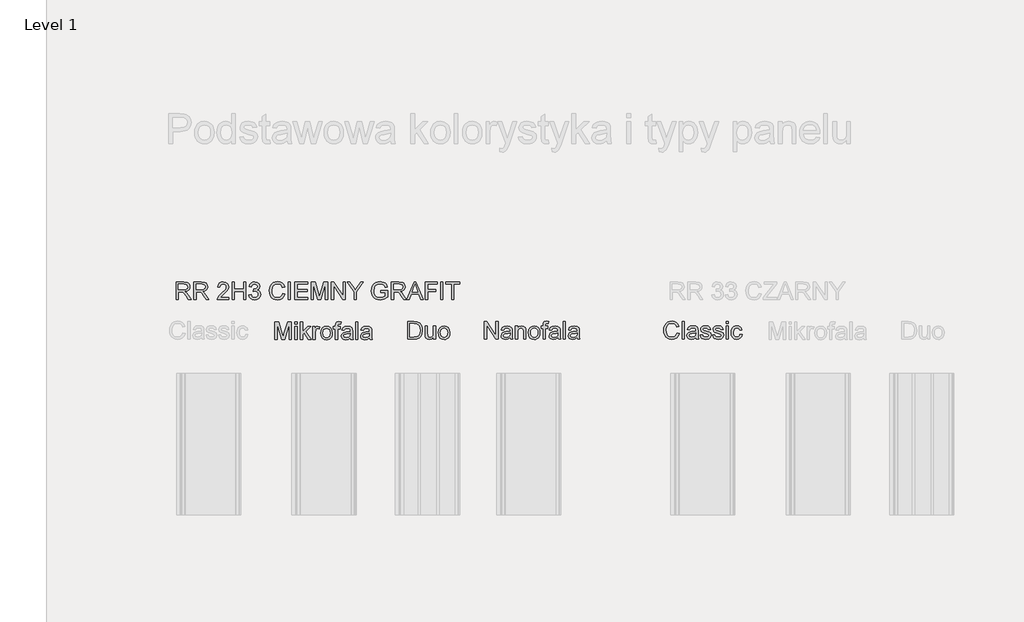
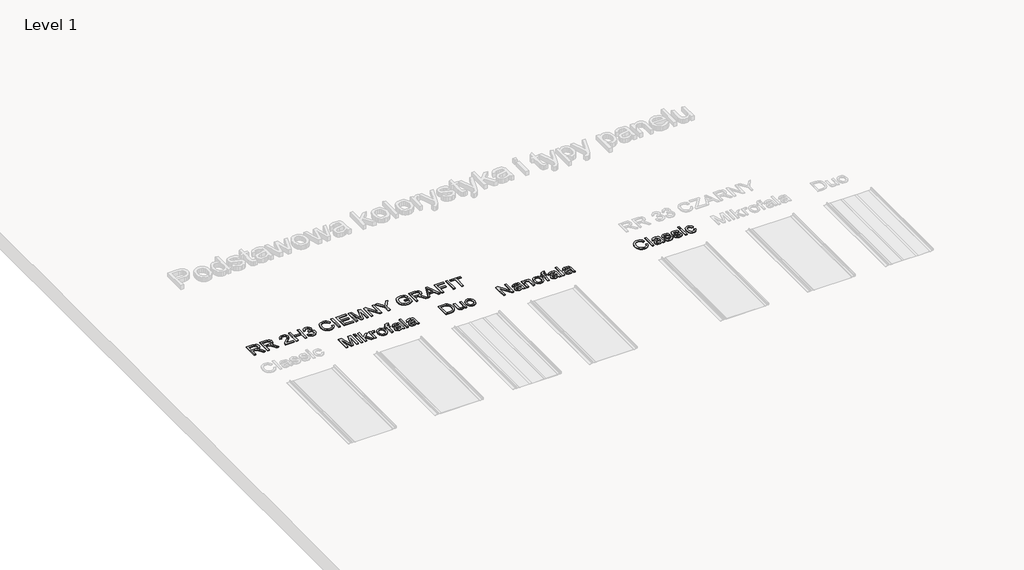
# One storey, part 17 of 22: 5 proxies.
"""IFC4 building model written with IfcOpenShell, lengths in millimetres."""

from ifc_helpers import new_model, si_unit, frame, origin, place, context, project, spatial, polyline, outline, extrude, element, save

model = new_model("IFC4")

# Units and contexts
model_context = context("Model", 3, world=origin())
ifc_project = project(units=[si_unit("LENGTHUNIT", "METRE", prefix="MILLI")], contexts=[model_context])

# Site, building, storey
site = spatial("IfcSite", under=ifc_project)
building = spatial("IfcBuilding", under=site)
storey = spatial("IfcBuildingStorey", under=building, Name="Level 1", Elevation=0.0)

# Proxies
placement = place(None, origin())
element("IfcBuildingElementProxy", 1, Name="150", ObjectType="150", at=placement, inside=storey, context=model_context, shape_type="SweptSolid", body=[
    extrude(outline(polyline([(-7895.6654959, 1124.718613), (-7895.6654959, 1275.4030782), (-7863.3654568, 1275.4030782), (-7832.4633692, 1169.1955462), (-7826.2093753, 1147.0122619), (-7819.4771347, 1171.0349562), (-7789.1636583, 1275.4030782), (-7756.7532546, 1275.4030782), (-7756.7532546, 1124.718613), (-7775.5888127, 1124.718613), (-7775.5888127, 1256.5675201), (-7813.44387, 1124.718613), (-7838.9380923, 1124.718613), (-7876.8299378, 1256.5675201), (-7876.8299378, 1124.718613), (-7895.6654959, 1124.718613)])), frame((0.0, 0.0, 600.0), z_axis=(0.0, 0.0, 1.0), x_axis=(1.0, 0.0, 0.0)), (0.0, 0.0, 1.0), 10.0),
    extrude(outline(polyline([(-7726.1454726, 1256.5675201), (-7726.1454726, 1275.4030782), (-7707.3099144, 1275.4030782), (-7707.3099144, 1256.5675201), (-7726.1454726, 1256.5675201)])), frame((0.0, 0.0, 600.0), z_axis=(0.0, 0.0, 1.0), x_axis=(1.0, 0.0, 0.0)), (0.0, 0.0, 1.0), 10.0),
    extrude(outline(polyline([(-7726.1454726, 1124.718613), (-7726.1454726, 1235.3775171), (-7707.3099144, 1235.3775171), (-7707.3099144, 1124.718613), (-7726.1454726, 1124.718613)])), frame((0.0, 0.0, 600.0), z_axis=(0.0, 0.0, 1.0), x_axis=(1.0, 0.0, 0.0)), (0.0, 0.0, 1.0), 10.0),
    extrude(outline(polyline([(-7679.0565772, 1124.718613), (-7679.0565772, 1275.4030782), (-7660.221019, 1275.4030782), (-7660.221019, 1194.4322511), (-7617.988166, 1235.3775171), (-7591.9421207, 1235.3775171), (-7634.7267968, 1193.9172163), (-7589.587676, 1124.718613), (-7611.5870193, 1124.718613), (-7648.228066, 1180.8206173), (-7660.221019, 1169.158758), (-7660.221019, 1124.718613), (-7679.0565772, 1124.718613)])), frame((0.0, 0.0, 600.0), z_axis=(0.0, 0.0, 1.0), x_axis=(1.0, 0.0, 0.0)), (0.0, 0.0, 1.0), 10.0),
    extrude(outline(polyline([(-7573.1065626, 1124.718613), (-7573.1065626, 1235.3775171), (-7556.6254492, 1235.3775171), (-7556.6254492, 1219.0067684), (-7544.9268017, 1234.0899302), (-7533.1545779, 1237.7319619), (-7514.2454433, 1231.9194264), (-7520.5362255, 1215.0336428), (-7533.7799773, 1218.8964038), (-7544.4301611, 1215.1807956), (-7551.2175839, 1204.8800997), (-7554.2710044, 1182.8807564), (-7554.2710044, 1124.718613), (-7573.1065626, 1124.718613)])), frame((0.0, 0.0, 600.0), z_axis=(0.0, 0.0, 1.0), x_axis=(1.0, 0.0, 0.0)), (0.0, 0.0, 1.0), 10.0),
    extrude(outline(polyline([(-7507.182109, 1180.0480651), (-7503.1078159, 1206.7287068), (-7490.8849367, 1225.4814915), (-7475.7833808, 1234.6693443), (-7457.7019807, 1237.7319619), (-7437.9145279, 1234.0025582), (-7422.1093977, 1222.814347), (-7411.748921, 1205.0502452), (-7408.2954287, 1181.5931694), (-7409.822139, 1162.5644732), (-7414.4022699, 1148.0791197), (-7421.902464, 1137.2311993), (-7432.1893643, 1129.1148028), (-7444.4076451, 1124.0518269), (-7457.7019807, 1122.3641682), (-7477.7285568, 1126.0797764), (-7493.5152929, 1137.2266008), (-7503.765405, 1155.3631832), (-7507.182109, 1180.0480651)]), holes=[polyline([(-7488.3465509, 1180.0848533), (-7486.1668501, 1163.0381213), (-7479.6277476, 1150.8934169), (-7469.7869042, 1143.623149), (-7457.7019807, 1141.1997264), (-7445.6722394, 1143.6369446), (-7435.8497902, 1150.9485992), (-7429.3106877, 1163.254252), (-7427.1309869, 1180.6734645), (-7429.3244833, 1197.2235557), (-7435.9049725, 1209.2027132), (-7445.7412173, 1216.4729811), (-7457.7019807, 1218.8964038), (-7469.7869042, 1216.4821782), (-7479.6277476, 1209.2395014), (-7486.1668501, 1197.1223882), (-7488.3465509, 1180.0848533)])]), frame((0.0, 0.0, 600.0), z_axis=(0.0, 0.0, 1.0), x_axis=(1.0, 0.0, 0.0)), (0.0, 0.0, 1.0), 10.0),
    extrude(outline(polyline([(-7382.3965363, 1124.718613), (-7382.3965363, 1216.541959), (-7398.8776497, 1216.541959), (-7398.8776497, 1235.3775171), (-7382.3965363, 1235.3775171), (-7382.3965363, 1246.5243416), (-7380.4099735, 1262.2329028), (-7370.7714652, 1273.4533036), (-7351.7887543, 1277.757523), (-7334.6086651, 1275.6973838), (-7337.3677801, 1258.039048), (-7348.2202989, 1258.9219648), (-7360.0844933, 1255.7949679), (-7363.5609781, 1244.1331086), (-7363.5609781, 1235.3775171), (-7342.3709752, 1235.3775171), (-7342.3709752, 1216.541959), (-7363.5609781, 1216.541959), (-7363.5609781, 1124.718613), (-7382.3965363, 1124.718613)])), frame((0.0, 0.0, 600.0), z_axis=(0.0, 0.0, 1.0), x_axis=(1.0, 0.0, 0.0)), (0.0, 0.0, 1.0), 10.0),
    extrude(outline(polyline([(-7255.2565187, 1138.8452816), (-7273.5218598, 1126.0797764), (-7293.7001872, 1122.3641682), (-7309.4409381, 1124.5990513), (-7321.0522136, 1131.3037007), (-7328.2121169, 1141.4848349), (-7330.5987514, 1154.1491726), (-7326.9935078, 1169.0483934), (-7317.5205464, 1179.8641241), (-7304.3319769, 1186.0445416), (-7288.0348045, 1188.8772329), (-7255.3668833, 1195.3519561), (-7255.2565187, 1199.5458108), (-7256.5533028, 1207.9519144), (-7260.4436549, 1213.4517502), (-7269.1440641, 1217.5352404), (-7281.2657758, 1218.8964038), (-7300.3220632, 1215.2727661), (-7309.4087484, 1202.4152904), (-7328.2443066, 1204.7697351), (-7320.0957204, 1223.1638349), (-7303.6881834, 1233.9427774), (-7278.8377546, 1237.7319619), (-7256.0106768, 1234.3842357), (-7243.1164129, 1225.9781322), (-7237.3406656, 1213.1942328), (-7236.4209606, 1196.7131194), (-7236.4209606, 1173.2790364), (-7235.4644674, 1140.5559329), (-7231.7120711, 1124.718613), (-7250.5476292, 1124.718613), (-7255.2565187, 1138.8452816)]), holes=[polyline([(-7255.2565187, 1176.5163979), (-7285.6435715, 1170.7406506), (-7301.8487734, 1167.68723), (-7309.1880192, 1162.7208231), (-7311.7631932, 1155.4735478), (-7306.1529928, 1145.2832165), (-7289.6902735, 1141.1997264), (-7270.6339861, 1145.7062808), (-7258.3467275, 1156.613982), (-7255.3668833, 1171.182109), (-7255.2565187, 1176.5163979)])]), frame((0.0, 0.0, 600.0), z_axis=(0.0, 0.0, 1.0), x_axis=(1.0, 0.0, 0.0)), (0.0, 0.0, 1.0), 10.0),
    extrude(outline(polyline([(-7210.5220681, 1124.718613), (-7210.5220681, 1275.4030782), (-7191.68651, 1275.4030782), (-7191.68651, 1124.718613), (-7210.5220681, 1124.718613)])), frame((0.0, 0.0, 600.0), z_axis=(0.0, 0.0, 1.0), x_axis=(1.0, 0.0, 0.0)), (0.0, 0.0, 1.0), 10.0),
    extrude(outline(polyline([(-7092.7998297, 1138.8452816), (-7111.0651707, 1126.0797764), (-7131.2434982, 1122.3641682), (-7146.984249, 1124.5990513), (-7158.5955245, 1131.3037007), (-7165.7554278, 1141.4848349), (-7168.1420623, 1154.1491726), (-7164.5368187, 1169.0483934), (-7155.0638574, 1179.8641241), (-7141.8752878, 1186.0445416), (-7125.5781154, 1188.8772329), (-7092.9101943, 1195.3519561), (-7092.7998297, 1199.5458108), (-7094.0966137, 1207.9519144), (-7097.9869658, 1213.4517502), (-7106.687375, 1217.5352404), (-7118.8090867, 1218.8964038), (-7137.8653741, 1215.2727661), (-7146.9520594, 1202.4152904), (-7165.7876175, 1204.7697351), (-7157.6390313, 1223.1638349), (-7141.2314943, 1233.9427774), (-7116.3810656, 1237.7319619), (-7093.5539878, 1234.3842357), (-7080.6597238, 1225.9781322), (-7074.8839765, 1213.1942328), (-7073.9642715, 1196.7131194), (-7073.9642715, 1173.2790364), (-7073.0077783, 1140.5559329), (-7069.255382, 1124.718613), (-7088.0909401, 1124.718613), (-7092.7998297, 1138.8452816)]), holes=[polyline([(-7092.7998297, 1176.5163979), (-7123.1868825, 1170.7406506), (-7139.3920844, 1167.68723), (-7146.7313302, 1162.7208231), (-7149.3065041, 1155.4735478), (-7143.6963037, 1145.2832165), (-7127.2335844, 1141.1997264), (-7108.1772971, 1145.7062808), (-7095.8900384, 1156.613982), (-7092.9101943, 1171.182109), (-7092.7998297, 1176.5163979)])]), frame((0.0, 0.0, 600.0), z_axis=(0.0, 0.0, 1.0), x_axis=(1.0, 0.0, 0.0)), (0.0, 0.0, 1.0), 10.0),
])
element("IfcBuildingElementProxy", 2, Name="150", ObjectType="150", at=placement, inside=storey, context=model_context, shape_type="SweptSolid", body=[
    extrude(outline(polyline([(-6767.5807075, 1127.8407532), (-6767.5807075, 1278.5252184), (-6715.5989816, 1278.5252184), (-6688.7068077, 1276.3547147), (-6666.5603116, 1265.5757722), (-6656.1400541, 1254.097854), (-6648.7180349, 1239.8240325), (-6644.2758598, 1223.0302195), (-6642.7951347, 1203.9923262), (-6646.8050485, 1173.5868793), (-6657.1057443, 1151.6427183), (-6670.864531, 1137.9759022), (-6688.8723546, 1130.4159272), (-6713.097384, 1127.8407532), (-6767.5807075, 1127.8407532)]), holes=[polyline([(-6748.7451493, 1146.6763114), (-6715.4150406, 1146.6763114), (-6691.1716171, 1149.3986381), (-6677.1921013, 1157.0873718), (-6665.7325771, 1175.7941713), (-6661.6306929, 1204.2866318), (-6663.6402483, 1224.8144471), (-6669.6689145, 1239.9711853), (-6678.5762573, 1250.3822458), (-6689.2218425, 1256.6730279), (-6715.9300754, 1259.6896603), (-6748.7451493, 1259.6896603), (-6748.7451493, 1146.6763114)])]), frame((0.0, 0.0, 600.0), z_axis=(0.0, 0.0, 1.0), x_axis=(1.0, 0.0, 0.0)), (0.0, 0.0, 1.0), 10.0),
    extrude(outline(polyline([(-6548.617344, 1127.8407532), (-6548.617344, 1146.8602524), (-6563.369412, 1130.8297944), (-6582.6096403, 1125.4863084), (-6600.3231584, 1129.2387048), (-6612.5368406, 1138.6564839), (-6618.1470411, 1152.5256351), (-6619.250687, 1170.0368181), (-6619.250687, 1238.4996574), (-6600.4151289, 1238.4996574), (-6600.4151289, 1178.9027741), (-6599.2746947, 1159.699334), (-6591.8250843, 1148.4237508), (-6577.7903862, 1144.3218666), (-6562.0634309, 1148.5157213), (-6551.6707645, 1159.9384573), (-6548.617344, 1180.9261251), (-6548.617344, 1238.4996574), (-6529.7817858, 1238.4996574), (-6529.7817858, 1127.8407532), (-6548.617344, 1127.8407532)])), frame((0.0, 0.0, 600.0), z_axis=(0.0, 0.0, 1.0), x_axis=(1.0, 0.0, 0.0)), (0.0, 0.0, 1.0), 10.0),
    extrude(outline(polyline([(-6508.5917829, 1183.1702053), (-6504.5174898, 1209.850847), (-6492.2946105, 1228.6036317), (-6477.1930546, 1237.7914845), (-6459.1116545, 1240.8541021), (-6439.3242017, 1237.1246984), (-6423.5190715, 1225.9364872), (-6413.1585948, 1208.1723854), (-6409.7051026, 1184.7153097), (-6411.2318129, 1165.6866135), (-6415.8119437, 1151.2012599), (-6423.3121379, 1140.3533396), (-6433.5990382, 1132.2369431), (-6445.8173189, 1127.1739671), (-6459.1116545, 1125.4863084), (-6479.1382307, 1129.2019166), (-6494.9249668, 1140.348741), (-6505.1750789, 1158.4853234), (-6508.5917829, 1183.1702053)]), holes=[polyline([(-6489.7562247, 1183.2069935), (-6487.5765239, 1166.1602615), (-6481.0374215, 1154.0155572), (-6471.1965781, 1146.7452892), (-6459.1116545, 1144.3218666), (-6447.0819133, 1146.7590848), (-6437.259464, 1154.0707395), (-6430.7203616, 1166.3763922), (-6428.5406607, 1183.7956047), (-6430.7341571, 1200.3456959), (-6437.3146463, 1212.3248534), (-6447.1508912, 1219.5951213), (-6459.1116545, 1222.018544), (-6471.1965781, 1219.6043184), (-6481.0374215, 1212.3616416), (-6487.5765239, 1200.2445284), (-6489.7562247, 1183.2069935)])]), frame((0.0, 0.0, 600.0), z_axis=(0.0, 0.0, 1.0), x_axis=(1.0, 0.0, 0.0)), (0.0, 0.0, 1.0), 10.0),
])
element("IfcBuildingElementProxy", 3, Name="150", ObjectType="150", at=placement, inside=storey, context=model_context, shape_type="SweptSolid", body=[
    extrude(outline(polyline([(-4479.0085992, 1182.8181359), (-4460.1730411, 1177.9620936), (-4468.8642532, 1156.013334), (-4482.5034782, 1139.9782776), (-4500.4193314, 1130.1696239), (-4521.9404281, 1126.9000726), (-4543.7880201, 1129.3740791), (-4561.1382547, 1136.7960983), (-4574.4371888, 1148.908613), (-4584.1308794, 1165.4541057), (-4590.049181, 1184.9058662), (-4592.0219482, 1205.7371842), (-4589.7916636, 1227.7089364), (-4583.1008098, 1246.6824503), (-4572.2988747, 1262.0553191), (-4557.7353462, 1273.2251362), (-4540.4632865, 1280.0263546), (-4521.5357579, 1282.2934274), (-4500.8837824, 1279.3595685), (-4483.8094593, 1270.5579918), (-4470.8462175, 1256.4313231), (-4462.5274859, 1237.5221886), (-4481.363044, 1233.0340282), (-4487.8929494, 1246.7698222), (-4496.8140878, 1256.1921998), (-4508.2368238, 1261.6414519), (-4522.2715219, 1263.4578692), (-4538.4491326, 1261.4437153), (-4551.7388697, 1255.4012536), (-4561.8234349, 1245.9650804), (-4568.38553, 1233.7697922), (-4573.18639, 1205.7739724), (-4571.7654458, 1188.373154), (-4567.5026132, 1173.3267804), (-4560.2369438, 1161.2096672), (-4549.8074892, 1152.59663), (-4537.3040999, 1147.4508806), (-4523.8166263, 1145.7356308), (-4508.0942695, 1148.0716815), (-4494.9930719, 1155.0798335), (-4485.1016448, 1166.6865104), (-4479.0085992, 1182.8181359)])), frame((0.0, 0.0, 600.0), z_axis=(0.0, 0.0, 1.0), x_axis=(1.0, 0.0, 0.0)), (0.0, 0.0, 1.0), 10.0),
    extrude(outline(polyline([(-4436.6285934, 1129.2545174), (-4436.6285934, 1279.9389826), (-4417.7930352, 1279.9389826), (-4417.7930352, 1129.2545174), (-4436.6285934, 1129.2545174)])), frame((0.0, 0.0, 600.0), z_axis=(0.0, 0.0, 1.0), x_axis=(1.0, 0.0, 0.0)), (0.0, 0.0, 1.0), 10.0),
    extrude(outline(polyline([(-4318.9063549, 1143.381186), (-4337.171696, 1130.6156808), (-4357.3500234, 1126.9000726), (-4373.0907743, 1129.1349558), (-4384.7020498, 1135.8396051), (-4391.8619531, 1146.0207393), (-4394.2485875, 1158.685077), (-4390.643344, 1173.5842978), (-4381.1703826, 1184.4000285), (-4367.9818131, 1190.580446), (-4351.6846407, 1193.4131374), (-4319.0167195, 1199.8878605), (-4318.9063549, 1204.0817152), (-4320.203139, 1212.4878188), (-4324.0934911, 1217.9876546), (-4332.7939003, 1222.0711448), (-4344.915612, 1223.4323082), (-4363.9718993, 1219.8086705), (-4373.0585846, 1206.9511948), (-4391.8941428, 1209.3056396), (-4383.7455566, 1227.6997393), (-4367.3380196, 1238.4786818), (-4342.4875908, 1242.2678663), (-4319.660513, 1238.9201402), (-4306.7662491, 1230.5140366), (-4300.9905018, 1217.7301372), (-4300.0707968, 1201.2490239), (-4300.0707968, 1177.8149408), (-4299.1143036, 1145.0918373), (-4295.3619072, 1129.2545174), (-4314.1974654, 1129.2545174), (-4318.9063549, 1143.381186)]), holes=[polyline([(-4318.9063549, 1181.0523023), (-4349.2934077, 1175.276555), (-4365.4986096, 1172.2231344), (-4372.8378554, 1167.2567275), (-4375.4130294, 1160.0094522), (-4369.802829, 1149.8191209), (-4353.3401097, 1145.7356308), (-4334.2838223, 1150.2421852), (-4321.9965637, 1161.1498864), (-4319.0167195, 1175.7180134), (-4318.9063549, 1181.0523023)])]), frame((0.0, 0.0, 600.0), z_axis=(0.0, 0.0, 1.0), x_axis=(1.0, 0.0, 0.0)), (0.0, 0.0, 1.0), 10.0),
    extrude(outline(polyline([(-4281.2352386, 1162.2167442), (-4262.3996805, 1164.5711889), (-4259.4290334, 1156.5145732), (-4253.6808772, 1150.5916731), (-4233.7048849, 1145.7356308), (-4214.5014447, 1150.1870029), (-4208.2474508, 1160.6348516), (-4209.8201463, 1165.4357116), (-4214.5382329, 1169.0961375), (-4233.9256141, 1174.4672146), (-4262.2893159, 1183.6826586), (-4274.668545, 1194.4432069), (-4278.8807939, 1209.6367334), (-4275.4962795, 1223.6714315), (-4266.2624414, 1234.3951916), (-4254.2878825, 1239.9686039), (-4238.0826806, 1242.2678663), (-4215.1636323, 1238.5706523), (-4200.5955053, 1228.564262), (-4194.1207822, 1211.6600843), (-4212.9563403, 1209.3056396), (-4220.0380687, 1219.6983059), (-4236.6111526, 1223.4323082), (-4254.6373704, 1219.8638528), (-4260.0452357, 1211.5497197), (-4257.8011555, 1206.068278), (-4250.7746094, 1201.9112115), (-4234.5510134, 1197.9012977), (-4206.9046815, 1189.0353416), (-4194.0655999, 1178.9921632), (-4189.4118926, 1162.6214144), (-4194.8749403, 1144.5951966), (-4210.6386838, 1131.5169917), (-4233.9624023, 1126.9000726), (-4252.9543103, 1129.1257587), (-4266.8142644, 1135.8028169), (-4276.0664966, 1146.8576709), (-4281.2352386, 1162.2167442)])), frame((0.0, 0.0, 600.0), z_axis=(0.0, 0.0, 1.0), x_axis=(1.0, 0.0, 0.0)), (0.0, 0.0, 1.0), 10.0),
    extrude(outline(polyline([(-4175.285224, 1162.2167442), (-4156.4496659, 1164.5711889), (-4153.4790188, 1156.5145732), (-4147.7308626, 1150.5916731), (-4127.7548702, 1145.7356308), (-4108.5514301, 1150.1870029), (-4102.2974362, 1160.6348516), (-4103.8701317, 1165.4357116), (-4108.5882183, 1169.0961375), (-4127.9755994, 1174.4672146), (-4156.3393013, 1183.6826586), (-4168.7185304, 1194.4432069), (-4172.9307793, 1209.6367334), (-4169.5462649, 1223.6714315), (-4160.3124268, 1234.3951916), (-4148.3378679, 1239.9686039), (-4132.132666, 1242.2678663), (-4109.2136177, 1238.5706523), (-4094.6454907, 1228.564262), (-4088.1707676, 1211.6600843), (-4107.0063257, 1209.3056396), (-4114.0880541, 1219.6983059), (-4130.661138, 1223.4323082), (-4148.6873558, 1219.8638528), (-4154.0952211, 1211.5497197), (-4151.8511409, 1206.068278), (-4144.8245948, 1201.9112115), (-4128.6009988, 1197.9012977), (-4100.9546669, 1189.0353416), (-4088.1155853, 1178.9921632), (-4083.461878, 1162.6214144), (-4088.9249257, 1144.5951966), (-4104.6886691, 1131.5169917), (-4128.0123876, 1126.9000726), (-4147.0042956, 1129.1257587), (-4160.8642498, 1135.8028169), (-4170.116482, 1146.8576709), (-4175.285224, 1162.2167442)])), frame((0.0, 0.0, 600.0), z_axis=(0.0, 0.0, 1.0), x_axis=(1.0, 0.0, 0.0)), (0.0, 0.0, 1.0), 10.0),
    extrude(outline(polyline([(-4062.2718751, 1261.1034245), (-4062.2718751, 1279.9389826), (-4043.4363169, 1279.9389826), (-4043.4363169, 1261.1034245), (-4062.2718751, 1261.1034245)])), frame((0.0, 0.0, 600.0), z_axis=(0.0, 0.0, 1.0), x_axis=(1.0, 0.0, 0.0)), (0.0, 0.0, 1.0), 10.0),
    extrude(outline(polyline([(-4062.2718751, 1129.2545174), (-4062.2718751, 1239.9134216), (-4043.4363169, 1239.9134216), (-4043.4363169, 1129.2545174), (-4062.2718751, 1129.2545174)])), frame((0.0, 0.0, 600.0), z_axis=(0.0, 0.0, 1.0), x_axis=(1.0, 0.0, 0.0)), (0.0, 0.0, 1.0), 10.0),
    extrude(outline(polyline([(-3944.5496366, 1169.2800785), (-3925.7140785, 1166.9256337), (-3930.965594, 1150.1732074), (-3940.8340285, 1137.5134682), (-3954.39048, 1129.5534215), (-3970.7060465, 1126.9000726), (-3990.7418197, 1130.6018852), (-4006.4089941, 1141.7073229), (-4016.5211505, 1159.7289422), (-4019.8918693, 1184.1792993), (-4018.452531, 1200.9409227), (-4014.134516, 1215.467663), (-4006.8688466, 1227.1985001), (-3996.5865449, 1235.572414), (-3984.2854906, 1240.5940032), (-3970.9635639, 1242.2678663), (-3955.0480691, 1239.9686039), (-3942.3239506, 1233.0708164), (-3933.1958786, 1221.9423861), (-3928.0685233, 1206.9511948), (-3946.9040814, 1204.59675), (-3955.6412788, 1218.7050245), (-3970.8164111, 1223.4323082), (-3982.9887066, 1221.1054546), (-3992.6502075, 1214.1248937), (-3998.9547852, 1202.1135465), (-4001.0563111, 1184.6943341), (-3999.0007705, 1167.0405968), (-3992.8341485, 1154.987863), (-3983.3473916, 1148.0486888), (-3971.3314459, 1145.7356308), (-3961.5779745, 1147.1795676), (-3953.5811396, 1151.5113781), (-3947.7640056, 1158.8414269), (-3944.5496366, 1169.2800785)])), frame((0.0, 0.0, 600.0), z_axis=(0.0, 0.0, 1.0), x_axis=(1.0, 0.0, 0.0)), (0.0, 0.0, 1.0), 10.0),
])
element("IfcBuildingElementProxy", 4, Name="150", ObjectType="150", at=placement, inside=storey, context=model_context, shape_type="SweptSolid", body=[
    extrude(outline(polyline([(-6116.7806572, 1127.8407532), (-6116.7806572, 1278.5252184), (-6096.6207239, 1278.5252184), (-6017.8939769, 1159.147511), (-6017.8939769, 1278.5252184), (-5999.0584188, 1278.5252184), (-5999.0584188, 1127.8407532), (-6019.2183521, 1127.8407532), (-6097.9450991, 1247.2552488), (-6097.9450991, 1127.8407532), (-6116.7806572, 1127.8407532)])), frame((0.0, 0.0, 600.0), z_axis=(0.0, 0.0, 1.0), x_axis=(1.0, 0.0, 0.0)), (0.0, 0.0, 1.0), 10.0),
    extrude(outline(polyline([(-5897.8172937, 1141.9674218), (-5916.0826347, 1129.2019166), (-5936.2609622, 1125.4863084), (-5952.001713, 1127.7211916), (-5963.6129885, 1134.4258409), (-5970.7728919, 1144.6069751), (-5973.1595263, 1157.2713128), (-5969.5542827, 1172.1705336), (-5960.0813214, 1182.9862643), (-5946.8927518, 1189.1666818), (-5930.5955795, 1191.9993732), (-5897.9276583, 1198.4740963), (-5897.8172937, 1202.667951), (-5899.1140777, 1211.0740546), (-5903.0044298, 1216.5738904), (-5911.704839, 1220.6573806), (-5923.8265507, 1222.018544), (-5942.8828381, 1218.3949063), (-5951.9695234, 1205.5374306), (-5970.8050815, 1207.8918754), (-5962.6564953, 1226.2859751), (-5946.2489583, 1237.0649176), (-5921.3985296, 1240.8541021), (-5898.5714518, 1237.506376), (-5885.6771878, 1229.1002724), (-5879.9014405, 1216.316373), (-5878.9817355, 1199.8352597), (-5878.9817355, 1176.4011766), (-5878.0252423, 1143.6780731), (-5874.272846, 1127.8407532), (-5893.1084041, 1127.8407532), (-5897.8172937, 1141.9674218)]), holes=[polyline([(-5897.8172937, 1179.6385381), (-5928.2043465, 1173.8627908), (-5944.4095484, 1170.8093702), (-5951.7487942, 1165.8429633), (-5954.3239681, 1158.595688), (-5948.7137677, 1148.4053567), (-5932.2510484, 1144.3218666), (-5913.1947611, 1148.828421), (-5900.9075024, 1159.7361222), (-5897.9276583, 1174.3042492), (-5897.8172937, 1179.6385381)])]), frame((0.0, 0.0, 600.0), z_axis=(0.0, 0.0, 1.0), x_axis=(1.0, 0.0, 0.0)), (0.0, 0.0, 1.0), 10.0),
    extrude(outline(polyline([(-5853.0828431, 1127.8407532), (-5853.0828431, 1238.4996574), (-5834.2472849, 1238.4996574), (-5834.2472849, 1223.0486136), (-5819.8447048, 1236.40273), (-5800.1814122, 1240.8541021), (-5782.3943177, 1237.2672527), (-5770.2542119, 1227.8494736), (-5764.6072232, 1213.9987165), (-5763.6139418, 1195.7885577), (-5763.6139418, 1127.8407532), (-5782.4495, 1127.8407532), (-5782.4495, 1193.250172), (-5784.6200038, 1209.9152263), (-5792.2903434, 1218.7260001), (-5805.2213955, 1222.018544), (-5816.2532568, 1220.1699369), (-5825.6572403, 1214.6241159), (-5832.0997738, 1203.9095528), (-5834.2472849, 1186.5547196), (-5834.2472849, 1127.8407532), (-5853.0828431, 1127.8407532)])), frame((0.0, 0.0, 600.0), z_axis=(0.0, 0.0, 1.0), x_axis=(1.0, 0.0, 0.0)), (0.0, 0.0, 1.0), 10.0),
    extrude(outline(polyline([(-5742.4239389, 1183.1702053), (-5738.3496458, 1209.850847), (-5726.1267665, 1228.6036317), (-5711.0252106, 1237.7914845), (-5692.9438106, 1240.8541021), (-5673.1563578, 1237.1246984), (-5657.3512275, 1225.9364872), (-5646.9907508, 1208.1723854), (-5643.5372586, 1184.7153097), (-5645.0639689, 1165.6866135), (-5649.6440997, 1151.2012599), (-5657.1442939, 1140.3533396), (-5667.4311942, 1132.2369431), (-5679.649475, 1127.1739671), (-5692.9438106, 1125.4863084), (-5712.9703867, 1129.2019166), (-5728.7571228, 1140.348741), (-5739.0072349, 1158.4853234), (-5742.4239389, 1183.1702053)]), holes=[polyline([(-5723.5883808, 1183.2069935), (-5721.4086799, 1166.1602615), (-5714.8695775, 1154.0155572), (-5705.0287341, 1146.7452892), (-5692.9438106, 1144.3218666), (-5680.9140693, 1146.7590848), (-5671.0916201, 1154.0707395), (-5664.5525176, 1166.3763922), (-5662.3728168, 1183.7956047), (-5664.5663132, 1200.3456959), (-5671.1468024, 1212.3248534), (-5680.9830472, 1219.5951213), (-5692.9438106, 1222.018544), (-5705.0287341, 1219.6043184), (-5714.8695775, 1212.3616416), (-5721.4086799, 1200.2445284), (-5723.5883808, 1183.2069935)])]), frame((0.0, 0.0, 600.0), z_axis=(0.0, 0.0, 1.0), x_axis=(1.0, 0.0, 0.0)), (0.0, 0.0, 1.0), 10.0),
    extrude(outline(polyline([(-5617.6383662, 1127.8407532), (-5617.6383662, 1219.6640992), (-5634.1194795, 1219.6640992), (-5634.1194795, 1238.4996574), (-5617.6383662, 1238.4996574), (-5617.6383662, 1249.6464818), (-5615.6518034, 1265.355043), (-5606.0132951, 1276.5754439), (-5587.0305842, 1280.8796632), (-5569.850495, 1278.819524), (-5572.6096099, 1261.1611883), (-5583.4621288, 1262.044105), (-5595.3263231, 1258.9171081), (-5598.802808, 1247.2552488), (-5598.802808, 1238.4996574), (-5577.6128051, 1238.4996574), (-5577.6128051, 1219.6640992), (-5598.802808, 1219.6640992), (-5598.802808, 1127.8407532), (-5617.6383662, 1127.8407532)])), frame((0.0, 0.0, 600.0), z_axis=(0.0, 0.0, 1.0), x_axis=(1.0, 0.0, 0.0)), (0.0, 0.0, 1.0), 10.0),
    extrude(outline(polyline([(-5490.4983486, 1141.9674218), (-5508.7636897, 1129.2019166), (-5528.9420171, 1125.4863084), (-5544.682768, 1127.7211916), (-5556.2940435, 1134.4258409), (-5563.4539468, 1144.6069751), (-5565.8405812, 1157.2713128), (-5562.2353377, 1172.1705336), (-5552.7623763, 1182.9862643), (-5539.5738068, 1189.1666818), (-5523.2766344, 1191.9993732), (-5490.6087132, 1198.4740963), (-5490.4983486, 1202.667951), (-5491.7951327, 1211.0740546), (-5495.6854848, 1216.5738904), (-5504.3858939, 1220.6573806), (-5516.5076057, 1222.018544), (-5535.563893, 1218.3949063), (-5544.6505783, 1205.5374306), (-5563.4861365, 1207.8918754), (-5555.3375503, 1226.2859751), (-5538.9300133, 1237.0649176), (-5514.0795845, 1240.8541021), (-5491.2525067, 1237.506376), (-5478.3582428, 1229.1002724), (-5472.5824955, 1216.316373), (-5471.6627905, 1199.8352597), (-5471.6627905, 1176.4011766), (-5470.7062973, 1143.6780731), (-5466.9539009, 1127.8407532), (-5485.7894591, 1127.8407532), (-5490.4983486, 1141.9674218)]), holes=[polyline([(-5490.4983486, 1179.6385381), (-5520.8854014, 1173.8627908), (-5537.0906033, 1170.8093702), (-5544.4298491, 1165.8429633), (-5547.0050231, 1158.595688), (-5541.3948227, 1148.4053567), (-5524.9321034, 1144.3218666), (-5505.875816, 1148.828421), (-5493.5885574, 1159.7361222), (-5490.6087132, 1174.3042492), (-5490.4983486, 1179.6385381)])]), frame((0.0, 0.0, 600.0), z_axis=(0.0, 0.0, 1.0), x_axis=(1.0, 0.0, 0.0)), (0.0, 0.0, 1.0), 10.0),
    extrude(outline(polyline([(-5445.763898, 1127.8407532), (-5445.763898, 1278.5252184), (-5426.9283399, 1278.5252184), (-5426.9283399, 1127.8407532), (-5445.763898, 1127.8407532)])), frame((0.0, 0.0, 600.0), z_axis=(0.0, 0.0, 1.0), x_axis=(1.0, 0.0, 0.0)), (0.0, 0.0, 1.0), 10.0),
    extrude(outline(polyline([(-5328.0416596, 1141.9674218), (-5346.3070006, 1129.2019166), (-5366.485328, 1125.4863084), (-5382.2260789, 1127.7211916), (-5393.8373544, 1134.4258409), (-5400.9972577, 1144.6069751), (-5403.3838922, 1157.2713128), (-5399.7786486, 1172.1705336), (-5390.3056872, 1182.9862643), (-5377.1171177, 1189.1666818), (-5360.8199453, 1191.9993732), (-5328.1520242, 1198.4740963), (-5328.0416596, 1202.667951), (-5329.3384436, 1211.0740546), (-5333.2287957, 1216.5738904), (-5341.9292049, 1220.6573806), (-5354.0509166, 1222.018544), (-5373.107204, 1218.3949063), (-5382.1938892, 1205.5374306), (-5401.0294474, 1207.8918754), (-5392.8808612, 1226.2859751), (-5376.4733242, 1237.0649176), (-5351.6228954, 1240.8541021), (-5328.7958176, 1237.506376), (-5315.9015537, 1229.1002724), (-5310.1258064, 1216.316373), (-5309.2061014, 1199.8352597), (-5309.2061014, 1176.4011766), (-5308.2496082, 1143.6780731), (-5304.4972119, 1127.8407532), (-5323.33277, 1127.8407532), (-5328.0416596, 1141.9674218)]), holes=[polyline([(-5328.0416596, 1179.6385381), (-5358.4287124, 1173.8627908), (-5374.6339142, 1170.8093702), (-5381.97316, 1165.8429633), (-5384.548334, 1158.595688), (-5378.9381336, 1148.4053567), (-5362.4754143, 1144.3218666), (-5343.419127, 1148.828421), (-5331.1318683, 1159.7361222), (-5328.1520242, 1174.3042492), (-5328.0416596, 1179.6385381)])]), frame((0.0, 0.0, 600.0), z_axis=(0.0, 0.0, 1.0), x_axis=(1.0, 0.0, 0.0)), (0.0, 0.0, 1.0), 10.0),
])
element("IfcBuildingElementProxy", 5, Name="150 Blue", ObjectType="150 Blue", at=placement, inside=storey, context=model_context, shape_type="SweptSolid", body=[
    extrude(outline(polyline([(-8736.4118342, 1464.3485888), (-8736.4118342, 1615.033054), (-8671.4806621, 1615.033054), (-8641.3327325, 1610.967958), (-8632.0529092, 1605.3393635), (-8624.8516192, 1596.583772), (-8620.2301016, 1585.7266546), (-8618.6895957, 1573.7934824), (-8621.2417771, 1558.9494439), (-8628.8983211, 1546.6437911), (-8641.8891541, 1537.6214852), (-8660.4442022, 1532.6274871), (-8649.7388361, 1524.5708714), (-8634.4717333, 1505.1834903), (-8609.3453931, 1464.3485888), (-8631.2343718, 1464.3485888), (-8650.8424821, 1495.5817702), (-8665.0059389, 1516.2567383), (-8674.9571469, 1526.0240053), (-8683.9150735, 1529.6108548), (-8694.8411687, 1530.2730423), (-8717.576276, 1530.2730423), (-8717.576276, 1464.3485888), (-8736.4118342, 1464.3485888)]), holes=[polyline([(-8717.576276, 1549.1086005), (-8675.4169994, 1549.1086005), (-8653.9142968, 1551.775745), (-8641.7006145, 1560.3106073), (-8637.5251539, 1573.0945066), (-8639.5163152, 1582.2823594), (-8645.4897991, 1589.6859846), (-8655.7675023, 1594.5696181), (-8670.6713217, 1596.1974959), (-8717.576276, 1596.1974959), (-8717.576276, 1549.1086005)])]), frame((0.0, 0.0, 600.0), z_axis=(0.0, 0.0, 1.0), x_axis=(1.0, 0.0, 0.0)), (0.0, 0.0, 1.0), 10.0),
    extrude(outline(polyline([(-8585.727369, 1464.3485888), (-8585.727369, 1615.033054), (-8520.7961968, 1615.033054), (-8490.6482673, 1610.967958), (-8481.368444, 1605.3393635), (-8474.1671539, 1596.583772), (-8469.5456364, 1585.7266546), (-8468.0051305, 1573.7934824), (-8470.5573119, 1558.9494439), (-8478.2138559, 1546.6437911), (-8491.2046888, 1537.6214852), (-8509.759737, 1532.6274871), (-8499.0543709, 1524.5708714), (-8483.7872681, 1505.1834903), (-8458.6609278, 1464.3485888), (-8480.5499066, 1464.3485888), (-8500.1580169, 1495.5817702), (-8514.3214737, 1516.2567383), (-8524.2726817, 1526.0240053), (-8533.2306083, 1529.6108548), (-8544.1567035, 1530.2730423), (-8566.8918108, 1530.2730423), (-8566.8918108, 1464.3485888), (-8585.727369, 1464.3485888)]), holes=[polyline([(-8566.8918108, 1549.1086005), (-8524.7325342, 1549.1086005), (-8503.2298316, 1551.775745), (-8491.0161493, 1560.3106073), (-8486.8406887, 1573.0945066), (-8488.83185, 1582.2823594), (-8494.8053339, 1589.6859846), (-8505.0830371, 1594.5696181), (-8519.9868564, 1596.1974959), (-8566.8918108, 1596.1974959), (-8566.8918108, 1549.1086005)])]), frame((0.0, 0.0, 600.0), z_axis=(0.0, 0.0, 1.0), x_axis=(1.0, 0.0, 0.0)), (0.0, 0.0, 1.0), 10.0),
    extrude(outline(polyline([(-8286.7128833, 1483.184147), (-8286.7128833, 1464.3485888), (-8385.5995636, 1464.3485888), (-8383.5762126, 1477.3348232), (-8372.1166885, 1497.3292097), (-8348.5170585, 1519.1630061), (-8316.0146842, 1550.5433403), (-8309.9308357, 1561.3590709), (-8307.9028862, 1571.880496), (-8309.8204711, 1581.3120707), (-8315.5732258, 1589.1525557), (-8324.4161893, 1594.4362608), (-8335.6044005, 1596.1974959), (-8347.3536317, 1594.4776476), (-8356.4817037, 1589.3181026), (-8362.3724141, 1581.1235311), (-8364.4095607, 1570.2986034), (-8383.2451188, 1572.6530482), (-8378.6787836, 1590.872404), (-8368.8057505, 1604.1805352), (-8354.1410545, 1612.3199243), (-8335.1997303, 1615.033054), (-8316.1204503, 1612.0164217), (-8301.4833454, 1602.9665246), (-8292.1713324, 1589.4468613), (-8289.0673281, 1573.0209302), (-8292.4150542, 1555.1602593), (-8303.5434846, 1536.6925832), (-8330.5276289, 1510.8856612), (-8352.1958784, 1492.7674729), (-8360.6939525, 1483.184147), (-8286.7128833, 1483.184147)])), frame((0.0, 0.0, 600.0), z_axis=(0.0, 0.0, 1.0), x_axis=(1.0, 0.0, 0.0)), (0.0, 0.0, 1.0), 10.0),
    extrude(outline(polyline([(-8260.8139908, 1464.3485888), (-8260.8139908, 1615.033054), (-8241.9784327, 1615.033054), (-8241.9784327, 1553.81749), (-8161.9273105, 1553.81749), (-8161.9273105, 1615.033054), (-8143.0917524, 1615.033054), (-8143.0917524, 1464.3485888), (-8161.9273105, 1464.3485888), (-8161.9273105, 1534.9819319), (-8241.9784327, 1534.9819319), (-8241.9784327, 1464.3485888), (-8260.8139908, 1464.3485888)])), frame((0.0, 0.0, 600.0), z_axis=(0.0, 0.0, 1.0), x_axis=(1.0, 0.0, 0.0)), (0.0, 0.0, 1.0), 10.0),
    extrude(outline(polyline([(-8117.1928599, 1504.3741499), (-8098.3573018, 1506.7285947), (-8094.1404544, 1494.8919915), (-8087.9646354, 1486.8997551), (-8079.5263421, 1482.3472154), (-8068.522072, 1480.8297022), (-8055.6094139, 1482.9174325), (-8045.6398119, 1489.1806235), (-8039.2662563, 1498.5248262), (-8037.1417378, 1509.8555916), (-8039.2478622, 1520.6115414), (-8045.5662355, 1529.3349433), (-8055.1311673, 1535.1152891), (-8066.9769676, 1537.0420711), (-8080.1839312, 1534.9819319), (-8078.0870038, 1553.81749), (-8075.0703715, 1553.5967608), (-8053.6964276, 1559.0046262), (-8046.5779109, 1565.8656254), (-8044.2050721, 1575.6328924), (-8045.9249204, 1583.767683), (-8051.0844654, 1590.3665663), (-8058.9571401, 1594.7397635), (-8068.8163776, 1596.1974959), (-8078.6940091, 1594.7259679), (-8086.7690189, 1590.311384), (-8092.6643279, 1582.9537441), (-8096.002857, 1572.6530482), (-8114.8384152, 1575.007493), (-8109.2925941, 1591.9208677), (-8099.4241596, 1604.5484172), (-8085.9228903, 1612.4118948), (-8069.4785651, 1615.033054), (-8046.7618519, 1609.864312), (-8030.8693498, 1595.7376434), (-8025.3695139, 1576.7365383), (-8030.5934383, 1559.3725082), (-8046.0444821, 1546.9013085), (-8034.2538641, 1542.1372367), (-8025.5166667, 1534.0254387), (-8020.1088014, 1523.0073729), (-8018.3061796, 1509.5244978), (-8021.9114232, 1491.1671863), (-8032.7271538, 1475.8265071), (-8049.0519174, 1465.4522348), (-8069.1842596, 1461.994144), (-8087.3944183, 1464.9463971), (-8102.2200627, 1473.8031561), (-8112.5299556, 1487.3504106), (-8117.1928599, 1504.3741499)])), frame((0.0, 0.0, 600.0), z_axis=(0.0, 0.0, 1.0), x_axis=(1.0, 0.0, 0.0)), (0.0, 0.0, 1.0), 10.0),
    extrude(outline(polyline([(-7829.9505981, 1517.9122073), (-7811.1150399, 1513.056165), (-7819.8062521, 1491.1074054), (-7833.445477, 1475.072349), (-7851.3613302, 1465.2636953), (-7872.8824269, 1461.994144), (-7894.7300189, 1464.4681505), (-7912.0802535, 1471.8901697), (-7925.3791876, 1484.0026844), (-7935.0728782, 1500.5481771), (-7940.9911798, 1519.9999376), (-7942.963947, 1540.8312556), (-7940.7336624, 1562.8030078), (-7934.0428086, 1581.7765217), (-7923.2408735, 1597.1493905), (-7908.6773451, 1608.3192076), (-7891.4052854, 1615.120426), (-7872.4777567, 1617.3874988), (-7851.8257812, 1614.4536399), (-7834.7514581, 1605.6520632), (-7821.7882163, 1591.5253945), (-7813.4694847, 1572.61626), (-7832.3050429, 1568.1280997), (-7838.8349483, 1581.8638936), (-7847.7560867, 1591.2862712), (-7859.1788226, 1596.7355233), (-7873.2135207, 1598.5519407), (-7889.3911315, 1596.5377867), (-7902.6808685, 1590.495325), (-7912.7654337, 1581.0591518), (-7919.3275288, 1568.8638636), (-7924.1283889, 1540.8680438), (-7922.7074446, 1523.4672254), (-7918.444612, 1508.4208518), (-7911.1789426, 1496.3037386), (-7900.7494881, 1487.6907014), (-7888.2460987, 1482.544952), (-7874.7586251, 1480.8297022), (-7859.0362683, 1483.1657529), (-7845.9350708, 1490.1739049), (-7836.0436436, 1501.7805818), (-7829.9505981, 1517.9122073)])), frame((0.0, 0.0, 600.0), z_axis=(0.0, 0.0, 1.0), x_axis=(1.0, 0.0, 0.0)), (0.0, 0.0, 1.0), 10.0),
    extrude(outline(polyline([(-7782.8617027, 1464.3485888), (-7782.8617027, 1615.033054), (-7764.0261446, 1615.033054), (-7764.0261446, 1464.3485888), (-7782.8617027, 1464.3485888)])), frame((0.0, 0.0, 600.0), z_axis=(0.0, 0.0, 1.0), x_axis=(1.0, 0.0, 0.0)), (0.0, 0.0, 1.0), 10.0),
    extrude(outline(polyline([(-7726.3550282, 1464.3485888), (-7726.3550282, 1615.033054), (-7618.0505689, 1615.033054), (-7618.0505689, 1596.1974959), (-7707.5194701, 1596.1974959), (-7707.5194701, 1551.4630453), (-7622.7594584, 1551.4630453), (-7622.7594584, 1532.6274871), (-7707.5194701, 1532.6274871), (-7707.5194701, 1483.184147), (-7615.6961241, 1483.184147), (-7615.6961241, 1464.3485888), (-7726.3550282, 1464.3485888)])), frame((0.0, 0.0, 600.0), z_axis=(0.0, 0.0, 1.0), x_axis=(1.0, 0.0, 0.0)), (0.0, 0.0, 1.0), 10.0),
    extrude(outline(polyline([(-7587.4427869, 1464.3485888), (-7587.4427869, 1615.033054), (-7555.1427477, 1615.033054), (-7524.2406601, 1508.825522), (-7517.9866662, 1486.6422377), (-7511.2544257, 1510.664932), (-7480.9409493, 1615.033054), (-7448.5305455, 1615.033054), (-7448.5305455, 1464.3485888), (-7467.3661036, 1464.3485888), (-7467.3661036, 1596.1974959), (-7505.2211609, 1464.3485888), (-7530.7153832, 1464.3485888), (-7568.6072287, 1596.1974959), (-7568.6072287, 1464.3485888), (-7587.4427869, 1464.3485888)])), frame((0.0, 0.0, 600.0), z_axis=(0.0, 0.0, 1.0), x_axis=(1.0, 0.0, 0.0)), (0.0, 0.0, 1.0), 10.0),
    extrude(outline(polyline([(-7415.5683187, 1464.3485888), (-7415.5683187, 1615.033054), (-7395.4083854, 1615.033054), (-7316.6816384, 1495.6553466), (-7316.6816384, 1615.033054), (-7297.8460803, 1615.033054), (-7297.8460803, 1464.3485888), (-7318.0060136, 1464.3485888), (-7396.7327606, 1583.7630844), (-7396.7327606, 1464.3485888), (-7415.5683187, 1464.3485888)])), frame((0.0, 0.0, 600.0), z_axis=(0.0, 0.0, 1.0), x_axis=(1.0, 0.0, 0.0)), (0.0, 0.0, 1.0), 10.0),
    extrude(outline(polyline([(-7222.5038477, 1464.3485888), (-7222.5038477, 1528.176115), (-7281.3649669, 1615.033054), (-7259.1816826, 1615.033054), (-7227.7645602, 1568.6431344), (-7211.688117, 1544.951534), (-7195.5380974, 1570.3353916), (-7167.0272428, 1615.033054), (-7144.8071703, 1615.033054), (-7203.6682895, 1528.176115), (-7203.6682895, 1464.3485888), (-7222.5038477, 1464.3485888)])), frame((0.0, 0.0, 600.0), z_axis=(0.0, 0.0, 1.0), x_axis=(1.0, 0.0, 0.0)), (0.0, 0.0, 1.0), 10.0),
    extrude(outline(polyline([(-6998.8315946, 1523.209708), (-6998.8315946, 1542.0452662), (-6937.6160306, 1542.0452662), (-6937.6160306, 1485.7225327), (-6967.8375365, 1467.9538324), (-6999.7880878, 1461.994144), (-7020.9183099, 1464.3623844), (-7040.0159839, 1471.4671054), (-7055.880895, 1483.0599868), (-7067.312828, 1498.8927082), (-7074.224411, 1517.8846162), (-7076.528272, 1538.9550574), (-7074.233608, 1560.17725), (-7067.3496162, 1579.9187176), (-7056.161405, 1596.4780059), (-7040.954083, 1608.1536607), (-7022.4312246, 1615.0790393), (-7001.296404, 1617.3874988), (-6971.8290561, 1612.0348158), (-6960.0798249, 1605.6336691), (-6951.1724821, 1597.135595), (-6939.7865344, 1572.2115898), (-6957.1505645, 1567.3187593), (-6965.7406091, 1584.7379717), (-6980.4191007, 1594.7811502), (-7001.5907095, 1598.5519407), (-7025.7053743, 1594.4868446), (-7042.1129113, 1583.8182667), (-7051.8066019, 1569.305322), (-7057.6927138, 1539.7276096), (-7055.9222817, 1521.7151874), (-7050.6109854, 1506.8941416), (-7041.9197733, 1495.3702381), (-7030.0095937, 1487.249243), (-7016.0714646, 1482.4345874), (-7001.296404, 1480.8297022), (-6975.5262702, 1485.6673504), (-6956.4515887, 1495.9864404), (-6956.4515887, 1523.209708), (-6998.8315946, 1523.209708)])), frame((0.0, 0.0, 600.0), z_axis=(0.0, 0.0, 1.0), x_axis=(1.0, 0.0, 0.0)), (0.0, 0.0, 1.0), 10.0),
    extrude(outline(polyline([(-6907.0082486, 1464.3485888), (-6907.0082486, 1615.033054), (-6842.0770764, 1615.033054), (-6811.9291469, 1610.967958), (-6802.6493236, 1605.3393635), (-6795.4480336, 1596.583772), (-6790.826516, 1585.7266546), (-6789.2860101, 1573.7934824), (-6791.8381915, 1558.9494439), (-6799.4947355, 1546.6437911), (-6812.4855685, 1537.6214852), (-6831.0406166, 1532.6274871), (-6820.3352505, 1524.5708714), (-6805.0681477, 1505.1834903), (-6779.9418075, 1464.3485888), (-6801.8307862, 1464.3485888), (-6821.4388965, 1495.5817702), (-6835.6023533, 1516.2567383), (-6845.5535613, 1526.0240053), (-6854.5114879, 1529.6108548), (-6865.4375831, 1530.2730423), (-6888.1726904, 1530.2730423), (-6888.1726904, 1464.3485888), (-6907.0082486, 1464.3485888)]), holes=[polyline([(-6888.1726904, 1549.1086005), (-6846.0134138, 1549.1086005), (-6824.5107112, 1551.775745), (-6812.2970289, 1560.3106073), (-6808.1215683, 1573.0945066), (-6810.1127296, 1582.2823594), (-6816.0862135, 1589.6859846), (-6826.3639167, 1594.5696181), (-6841.267736, 1596.1974959), (-6888.1726904, 1596.1974959), (-6888.1726904, 1549.1086005)])]), frame((0.0, 0.0, 600.0), z_axis=(0.0, 0.0, 1.0), x_axis=(1.0, 0.0, 0.0)), (0.0, 0.0, 1.0), 10.0),
    extrude(outline(polyline([(-6773.8349663, 1464.3485888), (-6713.6862601, 1615.033054), (-6697.6466051, 1615.033054), (-6637.5346871, 1464.3485888), (-6657.4371031, 1464.3485888), (-6674.6539804, 1511.4374842), (-6736.7524612, 1511.4374842), (-6753.9693386, 1464.3485888), (-6773.8349663, 1464.3485888)]), holes=[polyline([(-6729.8362797, 1530.2730423), (-6681.5333737, 1530.2730423), (-6695.1450076, 1567.3187593), (-6705.7032208, 1596.1974959), (-6715.0842117, 1570.5561208), (-6729.8362797, 1530.2730423)])]), frame((0.0, 0.0, 600.0), z_axis=(0.0, 0.0, 1.0), x_axis=(1.0, 0.0, 0.0)), (0.0, 0.0, 1.0), 10.0),
    extrude(outline(polyline([(-6617.411542, 1464.3485888), (-6617.411542, 1615.033054), (-6516.1704169, 1615.033054), (-6516.1704169, 1596.1974959), (-6598.5759838, 1596.1974959), (-6598.5759838, 1551.4630453), (-6527.9426408, 1551.4630453), (-6527.9426408, 1532.6274871), (-6598.5759838, 1532.6274871), (-6598.5759838, 1464.3485888), (-6617.411542, 1464.3485888)])), frame((0.0, 0.0, 600.0), z_axis=(0.0, 0.0, 1.0), x_axis=(1.0, 0.0, 0.0)), (0.0, 0.0, 1.0), 10.0),
    extrude(outline(polyline([(-6487.9170797, 1464.3485888), (-6487.9170797, 1615.033054), (-6469.0815215, 1615.033054), (-6469.0815215, 1464.3485888), (-6487.9170797, 1464.3485888)])), frame((0.0, 0.0, 600.0), z_axis=(0.0, 0.0, 1.0), x_axis=(1.0, 0.0, 0.0)), (0.0, 0.0, 1.0), 10.0),
    extrude(outline(polyline([(-6393.7392889, 1464.3485888), (-6393.7392889, 1596.1974959), (-6443.1826291, 1596.1974959), (-6443.1826291, 1615.033054), (-6325.4603906, 1615.033054), (-6325.4603906, 1596.1974959), (-6374.9037308, 1596.1974959), (-6374.9037308, 1464.3485888), (-6393.7392889, 1464.3485888)])), frame((0.0, 0.0, 600.0), z_axis=(0.0, 0.0, 1.0), x_axis=(1.0, 0.0, 0.0)), (0.0, 0.0, 1.0), 10.0),
])

save(model, "model.ifc")
